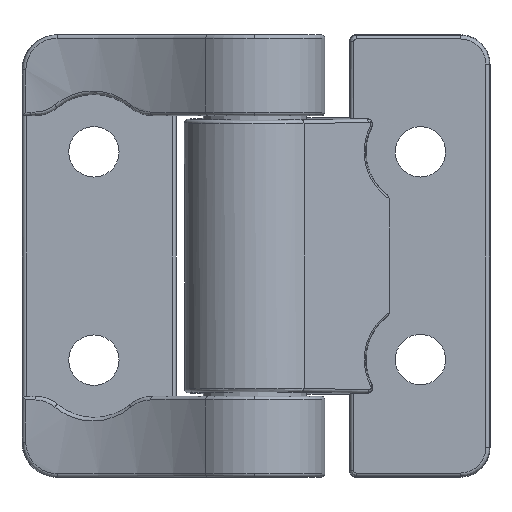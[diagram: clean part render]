
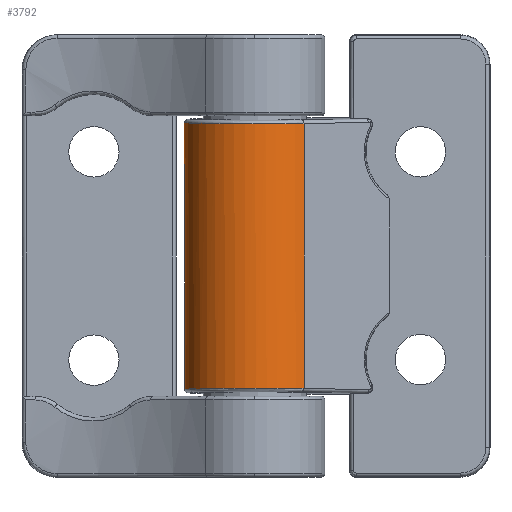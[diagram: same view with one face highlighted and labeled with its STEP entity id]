
A CAD part, left-side view. The second image highlights one B-rep face of the part: STEP entity #3792.
In plain terms, the highlighted cylindrical face has radius 6 mm (diameter 12 mm), a partial arc.
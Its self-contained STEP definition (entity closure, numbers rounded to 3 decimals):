
#52 = CARTESIAN_POINT ( 'NONE',  ( 15.662, -16.275, 35.15 ) ) ;
#86 = CARTESIAN_POINT ( 'NONE',  ( 11.313, -20.906, 12.493 ) ) ;
#317 = LINE ( 'NONE', #8856, #7911 ) ;
#429 = VERTEX_POINT ( 'NONE', #4687 ) ;
#462 = B_SPLINE_CURVE_WITH_KNOTS ( 'NONE', 3,
 ( #2340, #759, #6515, #5845, #86, #5761, #5126, #3773, #2950, #8019, #8672, #7967, #5180 ),
 .UNSPECIFIED., .F., .F.,
 ( 4, 1, 1, 1, 1, 1, 1, 1, 1, 1, 4 ),
 ( 0., 0.125, 0.188, 0.25, 0.313, 0.375, 0.5, 0.625, 0.75, 0.875, 1. ),
 .UNSPECIFIED. ) ;
#673 = CARTESIAN_POINT ( 'NONE',  ( 14.042, -17.034, 35.123 ) ) ;
#718 = CARTESIAN_POINT ( 'NONE',  ( 14.956, -16.565, 35.138 ) ) ;
#759 = CARTESIAN_POINT ( 'NONE',  ( 12.299, -25.63, 12.477 ) ) ;
#761 = CARTESIAN_POINT ( 'NONE',  ( 11.958, -19.246, 35.092 ) ) ;
#857 = CARTESIAN_POINT ( 'NONE',  ( 12.993, -26.331, 35.106 ) ) ;
#1450 = CARTESIAN_POINT ( 'NONE',  ( 12.217, -18.81, 35.095 ) ) ;
#1535 = CARTESIAN_POINT ( 'NONE',  ( 14.865, -16.604, 35.137 ) ) ;
#1566 = VERTEX_POINT ( 'NONE', #6259 ) ;
#1623 = VECTOR ( 'NONE', #6021, 1000. ) ;
#1684 = CARTESIAN_POINT ( 'NONE',  ( 23.255, -22.107, 35.276 ) ) ;
#1713 = ORIENTED_EDGE ( 'NONE', *, *, #8085, .T. ) ;
#2247 = CARTESIAN_POINT ( 'NONE',  ( 18.39, -16.183, 35.19 ) ) ;
#2260 = CARTESIAN_POINT ( 'NONE',  ( 23.255, -22.107, 35.276 ) ) ;
#2294 = CARTESIAN_POINT ( 'NONE',  ( 21.032, -17.413, 35.229 ) ) ;
#2340 = CARTESIAN_POINT ( 'NONE',  ( 12.993, -26.331, 12.465 ) ) ;
#2357 = CARTESIAN_POINT ( 'NONE',  ( 11.417, -20.638, 35.083 ) ) ;
#2469 = DIRECTION ( 'NONE',  ( 0., 0., 1. ) ) ;
#2916 = CARTESIAN_POINT ( 'NONE',  ( 12.842, -18.01, 35.105 ) ) ;
#2950 = CARTESIAN_POINT ( 'NONE',  ( 17.877, -15.893, 12.384 ) ) ;
#2995 = CARTESIAN_POINT ( 'NONE',  ( 20.108, -16.8, 35.215 ) ) ;
#3052 = CARTESIAN_POINT ( 'NONE',  ( 23.097, -20.692, 35.27 ) ) ;
#3163 = LINE ( 'NONE', #2260, #1623 ) ;
#3646 = CARTESIAN_POINT ( 'NONE',  ( 14.496, -16.778, 35.131 ) ) ;
#3697 = CARTESIAN_POINT ( 'NONE',  ( 12.352, -25.684, 35.095 ) ) ;
#3773 = CARTESIAN_POINT ( 'NONE',  ( 14.878, -16.332, 12.434 ) ) ;
#3792 = ADVANCED_FACE ( 'NONE', ( #5909 ), #8732, .T. ) ;
#4346 = CARTESIAN_POINT ( 'NONE',  ( 14.918, -16.581, 35.138 ) ) ;
#4388 = CARTESIAN_POINT ( 'NONE',  ( 19.575, -16.54, 35.207 ) ) ;
#4412 = EDGE_CURVE ( 'NONE', #6724, #1566, #462, .T. ) ;
#4452 = CARTESIAN_POINT ( 'NONE',  ( 11.259, -23.077, 35.08 ) ) ;
#4471 = B_SPLINE_CURVE_WITH_KNOTS ( 'NONE', 3,
 ( #857, #3697, #6579, #4452, #7310, #2357, #7088, #761, #1450, #2916, #5043, #5805, #673, #8629, #3646, #6397, #7130, #1535, #4346, #6518, #718, #9214, #7855, #52, #5764, #8591, #2247, #4388, #2995, #2294, #4490, #6717, #7351, #6099, #7487, #3052, #8075, #7295, #5184, #1684 ),
 .UNSPECIFIED., .F., .F.,
 ( 4, 2, 2, 2, 2, 2, 2, 2, 1, 1, 1, 1, 2, 2, 2, 2, 2, 2, 2, 2, 2, 4 ),
 ( 0., 0.125, 0.25, 0.312, 0.375, 0.437, 0.469, 0.484, 0.492, 0.496, 0.498, 0.499, 0.5, 0.5, 0.562, 0.625, 0.687, 0.75, 0.812, 0.875, 0.937, 1. ),
 .UNSPECIFIED. ) ;
#4490 = CARTESIAN_POINT ( 'NONE',  ( 21.424, -17.765, 35.236 ) ) ;
#4687 = CARTESIAN_POINT ( 'NONE',  ( 12.993, -26.331, 35.106 ) ) ;
#4906 = ORIENTED_EDGE ( 'NONE', *, *, #4412, .F. ) ;
#4959 = EDGE_CURVE ( 'NONE', #6724, #429, #317, .T. ) ;
#5043 = CARTESIAN_POINT ( 'NONE',  ( 13.209, -17.647, 35.11 ) ) ;
#5126 = CARTESIAN_POINT ( 'NONE',  ( 12.845, -17.832, 12.468 ) ) ;
#5180 = CARTESIAN_POINT ( 'NONE',  ( 23.255, -22.107, 12.295 ) ) ;
#5184 = CARTESIAN_POINT ( 'NONE',  ( 23.255, -21.873, 35.276 ) ) ;
#5335 = CARTESIAN_POINT ( 'NONE',  ( 12.993, -26.331, 12.465 ) ) ;
#5593 = EDGE_LOOP ( 'NONE', ( #5642, #8005, #1713, #4906 ) ) ;
#5642 = ORIENTED_EDGE ( 'NONE', *, *, #4959, .T. ) ;
#5761 = CARTESIAN_POINT ( 'NONE',  ( 11.786, -19.5, 12.485 ) ) ;
#5764 = CARTESIAN_POINT ( 'NONE',  ( 16.374, -16.133, 35.161 ) ) ;
#5805 = CARTESIAN_POINT ( 'NONE',  ( 13.825, -17.177, 35.12 ) ) ;
#5845 = CARTESIAN_POINT ( 'NONE',  ( 11.208, -22.38, 12.495 ) ) ;
#5909 = FACE_OUTER_BOUND ( 'NONE', #5593, .T. ) ;
#6021 = DIRECTION ( 'NONE',  ( 0., 0., -1. ) ) ;
#6099 = CARTESIAN_POINT ( 'NONE',  ( 22.737, -19.632, 35.261 ) ) ;
#6259 = CARTESIAN_POINT ( 'NONE',  ( 23.255, -22.107, 12.295 ) ) ;
#6397 = CARTESIAN_POINT ( 'NONE',  ( 14.672, -16.692, 35.134 ) ) ;
#6515 = CARTESIAN_POINT ( 'NONE',  ( 11.546, -24.321, 12.489 ) ) ;
#6518 = CARTESIAN_POINT ( 'NONE',  ( 14.945, -16.57, 35.138 ) ) ;
#6574 = CARTESIAN_POINT ( 'NONE',  ( 17.255, -22.107, 11.985 ) ) ;
#6579 = CARTESIAN_POINT ( 'NONE',  ( 11.848, -24.875, 35.088 ) ) ;
#6717 = CARTESIAN_POINT ( 'NONE',  ( 22.074, -18.499, 35.247 ) ) ;
#6724 = VERTEX_POINT ( 'NONE', #5335 ) ;
#6954 = VERTEX_POINT ( 'NONE', #8138 ) ;
#7088 = CARTESIAN_POINT ( 'NONE',  ( 11.558, -20.16, 35.086 ) ) ;
#7130 = CARTESIAN_POINT ( 'NONE',  ( 14.76, -16.65, 35.135 ) ) ;
#7295 = CARTESIAN_POINT ( 'NONE',  ( 23.241, -21.607, 35.275 ) ) ;
#7310 = CARTESIAN_POINT ( 'NONE',  ( 11.175, -22.089, 35.079 ) ) ;
#7351 = CARTESIAN_POINT ( 'NONE',  ( 22.332, -18.881, 35.252 ) ) ;
#7408 = DIRECTION ( 'NONE',  ( 1., 0., 0. ) ) ;
#7487 = CARTESIAN_POINT ( 'NONE',  ( 22.884, -19.999, 35.264 ) ) ;
#7855 = CARTESIAN_POINT ( 'NONE',  ( 14.966, -16.561, 35.138 ) ) ;
#7911 = VECTOR ( 'NONE', #2469, 1000. ) ;
#7967 = CARTESIAN_POINT ( 'NONE',  ( 23.255, -21.126, 12.295 ) ) ;
#8005 = ORIENTED_EDGE ( 'NONE', *, *, #9168, .T. ) ;
#8019 = CARTESIAN_POINT ( 'NONE',  ( 20.73, -16.918, 12.337 ) ) ;
#8075 = CARTESIAN_POINT ( 'NONE',  ( 23.162, -21.016, 35.272 ) ) ;
#8085 = EDGE_CURVE ( 'NONE', #6954, #1566, #3163, .T. ) ;
#8138 = CARTESIAN_POINT ( 'NONE',  ( 23.255, -22.107, 35.276 ) ) ;
#8352 = AXIS2_PLACEMENT_3D ( 'NONE', #6574, #8639, #7408 ) ;
#8591 = CARTESIAN_POINT ( 'NONE',  ( 17.738, -16.088, 35.181 ) ) ;
#8629 = CARTESIAN_POINT ( 'NONE',  ( 14.38, -16.839, 35.129 ) ) ;
#8639 = DIRECTION ( 'NONE',  ( 0., 0., 1. ) ) ;
#8672 = CARTESIAN_POINT ( 'NONE',  ( 22.764, -19.167, 12.303 ) ) ;
#8732 = CYLINDRICAL_SURFACE ( 'NONE', #8352, 6. ) ;
#8856 = CARTESIAN_POINT ( 'NONE',  ( 12.993, -26.331, 12.465 ) ) ;
#9168 = EDGE_CURVE ( 'NONE', #429, #6954, #4471, .T. ) ;
#9214 = CARTESIAN_POINT ( 'NONE',  ( 14.964, -16.562, 35.138 ) ) ;
